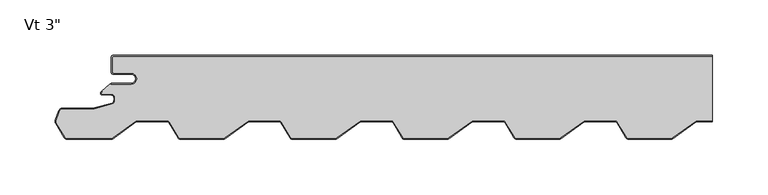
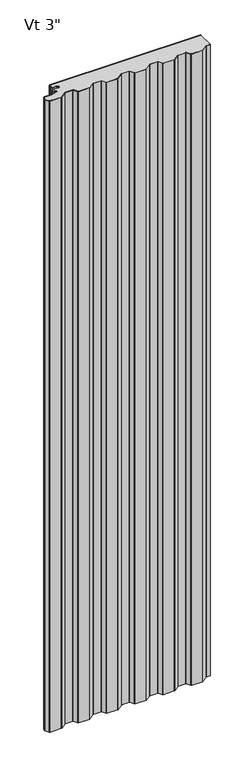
"""IFC4 building model written with IfcOpenShell, lengths in millimetres: plate geometry."""

from ifc_helpers import new_model, si_unit, point, frame_2d, origin, origin_with_axes, place, context, project, spatial, polyline, circle_curve, trimmed, segment, composite_curve, outline, extrude, source, transform, mapped, element, save


def plate_98482b00(model_context):
    return source(origin(), model_context, "Body", "SweptSolid", [
        extrude(outline(composite_curve([segment(polyline([(-270.4180055, 0.0), (272.7999998, 0.0), (272.7999998, -0.7939981), (-270.4180055, -0.7939981)]), True, "CONTINUOUS"), segment(trimmed(circle_curve(frame_2d((-270.4180055, -2.3819944)), 1.5879962), [point((-270.4180055, -0.7939981))], [point((-272.0060017, -2.3819944))], True, "CARTESIAN"), True, "CONTINUOUS"), segment(polyline([(-272.0060017, -2.3819944), (-272.0060017, -15.0859644)]), True, "CONTINUOUS"), segment(trimmed(circle_curve(frame_2d((-270.4180055, -15.0859644)), 1.5879962), [point((-272.0060017, -15.0859644))], [point((-270.4180055, -16.6739606))], True, "CARTESIAN"), True, "CONTINUOUS"), segment(polyline([(-270.4180055, -16.6739606), (-254.538043, -16.6739606)]), True, "CONTINUOUS"), segment(trimmed(circle_curve(frame_2d((-254.538043, -21.4379494)), 4.7639887), [point((-254.538043, -16.6739606))], [point((-254.538043, -26.2019381))], False, "CARTESIAN"), True, "CONTINUOUS"), segment(polyline([(-254.538043, -26.2019381), (-272.7999998, -26.2019381), (-272.7999998, -25.40794), (-254.538043, -25.40794)]), True, "CONTINUOUS"), segment(trimmed(circle_curve(frame_2d((-254.538043, -21.4379494)), 3.9699906), [point((-254.538043, -25.40794))], [point((-254.538043, -17.4679587))], True, "CARTESIAN"), True, "CONTINUOUS"), segment(polyline([(-254.538043, -17.4679587), (-270.4180055, -17.4679587)]), True, "CONTINUOUS"), segment(trimmed(circle_curve(frame_2d((-270.4180055, -15.0859644)), 2.3819944), [point((-270.4180055, -17.4679587))], [point((-272.7999998, -15.0859644))], False, "CARTESIAN"), True, "CONTINUOUS"), segment(polyline([(-272.7999998, -15.0859644), (-272.7999998, -2.3819944)]), True, "CONTINUOUS"), segment(trimmed(circle_curve(frame_2d((-270.4180055, -2.3819944)), 2.3819944), [point((-272.7999998, -2.3819944))], [point((-270.4180055, 0.0))], False, "CARTESIAN"), True, "CONTINUOUS")], self_intersect=False)), origin_with_axes(), (0.0, 0.0, 1.0), 2400.0),
        extrude(outline(composite_curve([segment(polyline([(-270.4180055, -0.8019381), (272.7999998, -0.8019381), (272.7999998, -59.5200375), (259.1601262, -59.5200375)]), True, "CONTINUOUS"), segment(trimmed(circle_curve(frame_2d((259.1601262, -61.870272)), 2.3502344), [point((259.1601262, -59.5200375))], [point((257.7940802, -59.9578075))], True, "CARTESIAN"), True, "CONTINUOUS"), segment(polyline([(257.7940802, -59.9578075), (236.5891175, -75.1042095)]), True, "CONTINUOUS"), segment(trimmed(circle_curve(frame_2d((235.6661134, -73.8120038)), 1.5879962), [point((236.5891175, -75.1042095))], [point((235.6661134, -75.4))], False, "CARTESIAN"), True, "CONTINUOUS"), segment(polyline([(235.6661134, -75.4), (196.4620591, -75.4)]), True, "CONTINUOUS"), segment(trimmed(circle_curve(frame_2d((196.4620591, -73.8120038)), 1.5879962), [point((196.4620591, -75.4))], [point((195.1003636, -74.6290211))], False, "CARTESIAN"), True, "CONTINUOUS"), segment(polyline([(195.1003636, -74.6290211), (186.7196027, -60.6610863)]), True, "CONTINUOUS"), segment(trimmed(circle_curve(frame_2d((184.7042933, -61.870272)), 2.3502344), [point((186.7196027, -60.6610863))], [point((184.7042933, -59.5200375))], True, "CARTESIAN"), True, "CONTINUOUS"), segment(polyline([(184.7042933, -59.5200375), (157.5283663, -59.5200375)]), True, "CONTINUOUS"), segment(trimmed(circle_curve(frame_2d((157.5283663, -61.870272)), 2.3502344), [point((157.5283663, -59.5200375))], [point((156.1623203, -59.9578075))], True, "CARTESIAN"), True, "CONTINUOUS"), segment(polyline([(156.1623203, -59.9578075), (134.9573576, -75.1042095)]), True, "CONTINUOUS"), segment(trimmed(circle_curve(frame_2d((134.0343535, -73.8120038)), 1.5879962), [point((134.9573576, -75.1042095))], [point((134.0343535, -75.4))], False, "CARTESIAN"), True, "CONTINUOUS"), segment(polyline([(134.0343535, -75.4), (94.8302992, -75.4)]), True, "CONTINUOUS"), segment(trimmed(circle_curve(frame_2d((94.8302992, -73.8120038)), 1.5879962), [point((94.8302992, -75.4))], [point((93.4686036, -74.6290211))], False, "CARTESIAN"), True, "CONTINUOUS"), segment(polyline([(93.4686036, -74.6290211), (85.0878428, -60.6610863)]), True, "CONTINUOUS"), segment(trimmed(circle_curve(frame_2d((83.0725334, -61.870272)), 2.3502344), [point((85.0878428, -60.6610863))], [point((83.0725334, -59.5200375))], True, "CARTESIAN"), True, "CONTINUOUS"), segment(polyline([(83.0725334, -59.5200375), (55.8966064, -59.5200375)]), True, "CONTINUOUS"), segment(trimmed(circle_curve(frame_2d((55.8966064, -61.870272)), 2.3502344), [point((55.8966064, -59.5200375))], [point((54.5305604, -59.9578075))], True, "CARTESIAN"), True, "CONTINUOUS"), segment(polyline([(54.5305604, -59.9578075), (33.3255977, -75.1042095)]), True, "CONTINUOUS"), segment(trimmed(circle_curve(frame_2d((32.4025936, -73.8120038)), 1.5879962), [point((33.3255977, -75.1042095))], [point((32.4025936, -75.4))], False, "CARTESIAN"), True, "CONTINUOUS"), segment(polyline([(32.4025936, -75.4), (-6.8014607, -75.4)]), True, "CONTINUOUS"), segment(trimmed(circle_curve(frame_2d((-6.8014607, -73.8120038)), 1.5879962), [point((-6.8014607, -75.4))], [point((-8.1631563, -74.6290211))], False, "CARTESIAN"), True, "CONTINUOUS"), segment(polyline([(-8.1631563, -74.6290211), (-16.5439171, -60.6610863)]), True, "CONTINUOUS"), segment(trimmed(circle_curve(frame_2d((-18.5592266, -61.870272)), 2.3502344), [point((-16.5439171, -60.6610863))], [point((-18.5592266, -59.5200375))], True, "CARTESIAN"), True, "CONTINUOUS"), segment(polyline([(-18.5592266, -59.5200375), (-45.7351535, -59.5200375)]), True, "CONTINUOUS"), segment(trimmed(circle_curve(frame_2d((-45.7351535, -61.870272)), 2.3502344), [point((-45.7351535, -59.5200375))], [point((-47.1011996, -59.9578075))], True, "CARTESIAN"), True, "CONTINUOUS"), segment(polyline([(-47.1011996, -59.9578075), (-68.3061623, -75.1042095)]), True, "CONTINUOUS"), segment(trimmed(circle_curve(frame_2d((-69.2291663, -73.8120038)), 1.5879962), [point((-68.3061623, -75.1042095))], [point((-69.2291663, -75.4))], False, "CARTESIAN"), True, "CONTINUOUS"), segment(polyline([(-69.2291663, -75.4), (-108.4332207, -75.4)]), True, "CONTINUOUS"), segment(trimmed(circle_curve(frame_2d((-108.4332207, -73.8120038)), 1.5879962), [point((-108.4332207, -75.4))], [point((-109.7949162, -74.6290211))], False, "CARTESIAN"), True, "CONTINUOUS"), segment(polyline([(-109.7949162, -74.6290211), (-118.1756771, -60.6610863)]), True, "CONTINUOUS"), segment(trimmed(circle_curve(frame_2d((-120.1909865, -61.870272)), 2.3502344), [point((-118.1756771, -60.6610863))], [point((-120.1909865, -59.5200375))], True, "CARTESIAN"), True, "CONTINUOUS"), segment(polyline([(-120.1909865, -59.5200375), (-147.3669135, -59.5200375)]), True, "CONTINUOUS"), segment(trimmed(circle_curve(frame_2d((-147.3669135, -61.870272)), 2.3502344), [point((-147.3669135, -59.5200375))], [point((-148.7329595, -59.9578075))], True, "CARTESIAN"), True, "CONTINUOUS"), segment(polyline([(-148.7329595, -59.9578075), (-169.9379222, -75.1042095)]), True, "CONTINUOUS"), segment(trimmed(circle_curve(frame_2d((-170.8609263, -73.8120038)), 1.5879962), [point((-169.9379222, -75.1042095))], [point((-170.8609263, -75.4))], False, "CARTESIAN"), True, "CONTINUOUS"), segment(polyline([(-170.8609263, -75.4), (-210.0649806, -75.4)]), True, "CONTINUOUS"), segment(trimmed(circle_curve(frame_2d((-210.0649806, -73.8120038)), 1.5879962), [point((-210.0649806, -75.4))], [point((-211.4266761, -74.6290211))], False, "CARTESIAN"), True, "CONTINUOUS"), segment(polyline([(-211.4266761, -74.6290211), (-219.807437, -60.6610863)]), True, "CONTINUOUS"), segment(trimmed(circle_curve(frame_2d((-221.8227464, -61.870272)), 2.3502344), [point((-219.807437, -60.6610863))], [point((-221.8227464, -59.5200375))], True, "CARTESIAN"), True, "CONTINUOUS"), segment(polyline([(-221.8227464, -59.5200375), (-248.9986734, -59.5200375)]), True, "CONTINUOUS"), segment(trimmed(circle_curve(frame_2d((-248.9986734, -61.870272)), 2.3502344), [point((-248.9986734, -59.5200375))], [point((-250.3647194, -59.9578075))], True, "CARTESIAN"), True, "CONTINUOUS"), segment(polyline([(-250.3647194, -59.9578075), (-271.5696821, -75.1042095)]), True, "CONTINUOUS"), segment(trimmed(circle_curve(frame_2d((-272.4926862, -73.8120038)), 1.5879962), [point((-271.5696821, -75.1042095))], [point((-272.4926862, -75.4))], False, "CARTESIAN"), True, "CONTINUOUS"), segment(polyline([(-272.4926862, -75.4), (-313.2512341, -75.4)]), True, "CONTINUOUS"), segment(trimmed(circle_curve(frame_2d((-313.2512341, -73.8120038)), 1.5879962), [point((-313.2512341, -75.4))], [point((-314.6129296, -74.6290211))], False, "CARTESIAN"), True, "CONTINUOUS"), segment(polyline([(-314.6129296, -74.6290211), (-322.4856613, -61.5078017)]), True, "CONTINUOUS"), segment(trimmed(circle_curve(frame_2d((-320.4431179, -60.2822757)), 2.3819944), [point((-322.4856613, -61.5078017))], [point((-322.6814605, -59.4675857))], False, "CARTESIAN"), True, "CONTINUOUS"), segment(polyline([(-322.6814605, -59.4675857), (-319.4568321, -50.6079921)]), True, "CONTINUOUS"), segment(trimmed(circle_curve(frame_2d((-317.2184896, -51.4226821)), 2.3819944), [point((-319.4568321, -50.6079921))], [point((-317.2184896, -49.0406877))], False, "CARTESIAN"), True, "CONTINUOUS"), segment(polyline([(-317.2184896, -49.0406877), (-290.0333742, -49.0406877)]), True, "CONTINUOUS"), segment(trimmed(circle_curve(frame_2d((-290.0333742, -45.8964552)), 3.1442326), [point((-290.0333742, -49.0406877))], [point((-289.2083607, -48.9305203))], True, "CARTESIAN"), True, "CONTINUOUS"), segment(polyline([(-289.2083607, -48.9305203), (-271.729044, -44.1775993)]), True, "CONTINUOUS"), segment(trimmed(circle_curve(frame_2d((-272.5540575, -41.1435342)), 3.1442326), [point((-271.729044, -44.1775993))], [point((-269.4098249, -41.1435342))], True, "CARTESIAN"), True, "CONTINUOUS"), segment(polyline([(-269.4098249, -41.1435342), (-269.4098249, -38.4816786)]), True, "CONTINUOUS"), segment(trimmed(circle_curve(frame_2d((-272.5540575, -38.4816786)), 3.1442326), [point((-269.4098249, -38.4816786))], [point((-272.5540575, -35.3374461))], True, "CARTESIAN"), True, "CONTINUOUS"), segment(polyline([(-272.5540575, -35.3374461), (-280.6420193, -35.3374461)]), True, "CONTINUOUS"), segment(trimmed(circle_curve(frame_2d((-280.6420193, -34.5434479)), 0.7939981), [point((-280.6420193, -35.3374461))], [point((-281.2034608, -33.9820065))], False, "CARTESIAN"), True, "CONTINUOUS"), segment(polyline([(-281.2034608, -33.9820065), (-280.6420193, -33.420565), (-281.2126537, -32.8499306), (-274.2125705, -26.2098781), (-254.538043, -26.2098781)]), True, "CONTINUOUS"), segment(trimmed(circle_curve(frame_2d((-254.538043, -21.4458893)), 4.7639887), [point((-254.538043, -26.2098781))], [point((-254.538043, -16.6819006))], True, "CARTESIAN"), True, "CONTINUOUS"), segment(polyline([(-254.538043, -16.6819006), (-270.4180055, -16.6819006)]), True, "CONTINUOUS"), segment(trimmed(circle_curve(frame_2d((-270.4180055, -15.0939043)), 1.5879962), [point((-270.4180055, -16.6819006))], [point((-272.0060017, -15.0939043))], False, "CARTESIAN"), True, "CONTINUOUS"), segment(polyline([(-272.0060017, -15.0939043), (-272.0060017, -2.3899344)]), True, "CONTINUOUS"), segment(trimmed(circle_curve(frame_2d((-270.4180055, -2.3899344)), 1.5879962), [point((-272.0060017, -2.3899344))], [point((-270.4180055, -0.8019381))], False, "CARTESIAN"), True, "CONTINUOUS")], self_intersect=False)), origin_with_axes(), (0.0, 0.0, 1.0), 2400.0),
        extrude(outline(composite_curve([segment(polyline([(259.1601262, -59.5200375), (272.7999998, -59.5200375), (272.7999998, -60.3200375), (259.1601262, -60.3200375)]), True, "CONTINUOUS"), segment(trimmed(circle_curve(frame_2d((259.1601262, -61.870272)), 1.5502344), [point((259.1601262, -60.3200375))], [point((258.2590708, -60.6087943))], True, "CARTESIAN"), True, "CONTINUOUS"), segment(polyline([(258.2590708, -60.6087943), (237.0541081, -75.7551962)]), True, "CONTINUOUS"), segment(trimmed(circle_curve(frame_2d((235.6661134, -73.8120038)), 2.3879962), [point((237.0541081, -75.7551962))], [point((235.6661134, -76.2))], False, "CARTESIAN"), True, "CONTINUOUS"), segment(polyline([(235.6661134, -76.2), (196.4620591, -76.2)]), True, "CONTINUOUS"), segment(trimmed(circle_curve(frame_2d((196.4620591, -73.8120038)), 2.3879962), [point((196.4620591, -76.2))], [point((194.4143692, -75.0406177))], False, "CARTESIAN"), True, "CONTINUOUS"), segment(polyline([(194.4143692, -75.0406177), (186.0336084, -61.0726829)]), True, "CONTINUOUS"), segment(trimmed(circle_curve(frame_2d((184.7042933, -61.870272)), 1.5502344), [point((186.0336084, -61.0726829))], [point((184.7042933, -60.3200375))], True, "CARTESIAN"), True, "CONTINUOUS"), segment(polyline([(184.7042933, -60.3200375), (157.5283663, -60.3200375)]), True, "CONTINUOUS"), segment(trimmed(circle_curve(frame_2d((157.5283663, -61.870272)), 1.5502344), [point((157.5283663, -60.3200375))], [point((156.6273108, -60.6087943))], True, "CARTESIAN"), True, "CONTINUOUS"), segment(polyline([(156.6273108, -60.6087943), (135.4223481, -75.7551962)]), True, "CONTINUOUS"), segment(trimmed(circle_curve(frame_2d((134.0343535, -73.8120038)), 2.3879962), [point((135.4223481, -75.7551962))], [point((134.0343535, -76.2))], False, "CARTESIAN"), True, "CONTINUOUS"), segment(polyline([(134.0343535, -76.2), (94.8302992, -76.2)]), True, "CONTINUOUS"), segment(trimmed(circle_curve(frame_2d((94.8302992, -73.8120038)), 2.3879962), [point((94.8302992, -76.2))], [point((92.7826093, -75.0406177))], False, "CARTESIAN"), True, "CONTINUOUS"), segment(polyline([(92.7826093, -75.0406177), (84.4018484, -61.0726829)]), True, "CONTINUOUS"), segment(trimmed(circle_curve(frame_2d((83.0725334, -61.870272)), 1.5502344), [point((84.4018484, -61.0726829))], [point((83.0725334, -60.3200375))], True, "CARTESIAN"), True, "CONTINUOUS"), segment(polyline([(83.0725334, -60.3200375), (55.8966064, -60.3200375)]), True, "CONTINUOUS"), segment(trimmed(circle_curve(frame_2d((55.8966064, -61.870272)), 1.5502344), [point((55.8966064, -60.3200375))], [point((54.9955509, -60.6087943))], True, "CARTESIAN"), True, "CONTINUOUS"), segment(polyline([(54.9955509, -60.6087943), (33.7905882, -75.7551962)]), True, "CONTINUOUS"), segment(trimmed(circle_curve(frame_2d((32.4025936, -73.8120038)), 2.3879962), [point((33.7905882, -75.7551962))], [point((32.4025936, -76.2))], False, "CARTESIAN"), True, "CONTINUOUS"), segment(polyline([(32.4025936, -76.2), (-6.8014607, -76.2)]), True, "CONTINUOUS"), segment(trimmed(circle_curve(frame_2d((-6.8014607, -73.8120038)), 2.3879962), [point((-6.8014607, -76.2))], [point((-8.8491506, -75.0406177))], False, "CARTESIAN"), True, "CONTINUOUS"), segment(polyline([(-8.8491506, -75.0406177), (-17.2299115, -61.0726829)]), True, "CONTINUOUS"), segment(trimmed(circle_curve(frame_2d((-18.5592266, -61.870272)), 1.5502344), [point((-17.2299115, -61.0726829))], [point((-18.5592266, -60.3200375))], True, "CARTESIAN"), True, "CONTINUOUS"), segment(polyline([(-18.5592266, -60.3200375), (-45.7351535, -60.3200375)]), True, "CONTINUOUS"), segment(trimmed(circle_curve(frame_2d((-45.7351535, -61.870272)), 1.5502344), [point((-45.7351535, -60.3200375))], [point((-46.636209, -60.6087943))], True, "CARTESIAN"), True, "CONTINUOUS"), segment(polyline([(-46.636209, -60.6087943), (-67.8411717, -75.7551962)]), True, "CONTINUOUS"), segment(trimmed(circle_curve(frame_2d((-69.2291663, -73.8120038)), 2.3879962), [point((-67.8411717, -75.7551962))], [point((-69.2291663, -76.2))], False, "CARTESIAN"), True, "CONTINUOUS"), segment(polyline([(-69.2291663, -76.2), (-108.4332207, -76.2)]), True, "CONTINUOUS"), segment(trimmed(circle_curve(frame_2d((-108.4332207, -73.8120038)), 2.3879962), [point((-108.4332207, -76.2))], [point((-110.4809105, -75.0406177))], False, "CARTESIAN"), True, "CONTINUOUS"), segment(polyline([(-110.4809105, -75.0406177), (-118.8616714, -61.0726829)]), True, "CONTINUOUS"), segment(trimmed(circle_curve(frame_2d((-120.1909865, -61.870272)), 1.5502344), [point((-118.8616714, -61.0726829))], [point((-120.1909865, -60.3200375))], True, "CARTESIAN"), True, "CONTINUOUS"), segment(polyline([(-120.1909865, -60.3200375), (-147.3669135, -60.3200375)]), True, "CONTINUOUS"), segment(trimmed(circle_curve(frame_2d((-147.3669135, -61.870272)), 1.5502344), [point((-147.3669135, -60.3200375))], [point((-148.2679689, -60.6087943))], True, "CARTESIAN"), True, "CONTINUOUS"), segment(polyline([(-148.2679689, -60.6087943), (-169.4729316, -75.7551962)]), True, "CONTINUOUS"), segment(trimmed(circle_curve(frame_2d((-170.8609263, -73.8120038)), 2.3879962), [point((-169.4729316, -75.7551962))], [point((-170.8609263, -76.2))], False, "CARTESIAN"), True, "CONTINUOUS"), segment(polyline([(-170.8609263, -76.2), (-210.0649806, -76.2)]), True, "CONTINUOUS"), segment(trimmed(circle_curve(frame_2d((-210.0649806, -73.8120038)), 2.3879962), [point((-210.0649806, -76.2))], [point((-212.1126705, -75.0406177))], False, "CARTESIAN"), True, "CONTINUOUS"), segment(polyline([(-212.1126705, -75.0406177), (-220.4934313, -61.0726829)]), True, "CONTINUOUS"), segment(trimmed(circle_curve(frame_2d((-221.8227464, -61.870272)), 1.5502344), [point((-220.4934313, -61.0726829))], [point((-221.8227464, -60.3200375))], True, "CARTESIAN"), True, "CONTINUOUS"), segment(polyline([(-221.8227464, -60.3200375), (-248.9986734, -60.3200375)]), True, "CONTINUOUS"), segment(trimmed(circle_curve(frame_2d((-248.9986734, -61.870272)), 1.5502344), [point((-248.9986734, -60.3200375))], [point((-249.8997289, -60.6087943))], True, "CARTESIAN"), True, "CONTINUOUS"), segment(polyline([(-249.8997289, -60.6087943), (-271.1046916, -75.7551962)]), True, "CONTINUOUS"), segment(trimmed(circle_curve(frame_2d((-272.4926862, -73.8120038)), 2.3879962), [point((-271.1046916, -75.7551962))], [point((-272.4926862, -76.2))], False, "CARTESIAN"), True, "CONTINUOUS"), segment(polyline([(-272.4926862, -76.2), (-313.2512341, -76.2)]), True, "CONTINUOUS"), segment(trimmed(circle_curve(frame_2d((-313.2512341, -73.8120038)), 2.3879962), [point((-313.2512341, -76.2))], [point((-315.298924, -75.0406177))], False, "CARTESIAN"), True, "CONTINUOUS"), segment(polyline([(-315.298924, -75.0406177), (-323.1716556, -61.9193983)]), True, "CONTINUOUS"), segment(trimmed(circle_curve(frame_2d((-320.4431179, -60.2822757)), 3.1819944), [point((-323.1716556, -61.9193983))], [point((-323.4332146, -59.1939695))], False, "CARTESIAN"), True, "CONTINUOUS"), segment(polyline([(-323.4332146, -59.1939695), (-320.2085862, -50.3343759)]), True, "CONTINUOUS"), segment(trimmed(circle_curve(frame_2d((-317.2184896, -51.4226821)), 3.1819944), [point((-320.2085862, -50.3343759))], [point((-317.2184896, -48.2406877))], False, "CARTESIAN"), True, "CONTINUOUS"), segment(polyline([(-317.2184896, -48.2406877), (-289.7203392, -48.2406877), (-271.9389556, -43.4056297)]), True, "CONTINUOUS"), segment(trimmed(circle_curve(frame_2d((-272.5540575, -41.1435342)), 2.3442326), [point((-271.9389556, -43.4056297))], [point((-270.2098249, -41.1435342))], True, "CARTESIAN"), True, "CONTINUOUS"), segment(polyline([(-270.2098249, -41.1435342), (-270.2098249, -38.4816786)]), True, "CONTINUOUS"), segment(trimmed(circle_curve(frame_2d((-272.5540575, -38.4816786)), 2.3442326), [point((-270.2098249, -38.4816786))], [point((-272.5540575, -36.1374461))], True, "CARTESIAN"), True, "CONTINUOUS"), segment(polyline([(-272.5540575, -36.1374461), (-280.7201443, -36.1374461)]), True, "CONTINUOUS"), segment(trimmed(circle_curve(frame_2d((-280.7201443, -34.5434479)), 1.5939981), [point((-280.7201443, -36.1374461))], [point((-281.8472712, -33.4163211))], False, "CARTESIAN"), True, "CONTINUOUS"), segment(polyline([(-281.8472712, -33.4163211), (-281.2858297, -32.8548796), (-280.7201443, -33.420565), (-281.2815858, -33.9820065)]), True, "CONTINUOUS"), segment(trimmed(circle_curve(frame_2d((-280.7201443, -34.5434479)), 0.7939981), [point((-281.2815858, -33.9820065))], [point((-280.7201443, -35.3374461))], True, "CARTESIAN"), True, "CONTINUOUS"), segment(polyline([(-280.7201443, -35.3374461), (-272.5540575, -35.3374461)]), True, "CONTINUOUS"), segment(trimmed(circle_curve(frame_2d((-272.5540575, -38.4816786)), 3.1442326), [point((-272.5540575, -35.3374461))], [point((-269.4098249, -38.4816786))], False, "CARTESIAN"), True, "CONTINUOUS"), segment(polyline([(-269.4098249, -38.4816786), (-269.4098249, -41.1435342)]), True, "CONTINUOUS"), segment(trimmed(circle_curve(frame_2d((-272.5540575, -41.1435342)), 3.1442326), [point((-269.4098249, -41.1435342))], [point((-271.729044, -44.1775993))], False, "CARTESIAN"), True, "CONTINUOUS"), segment(polyline([(-271.729044, -44.1775993), (-289.2083607, -48.9305203)]), True, "CONTINUOUS"), segment(trimmed(circle_curve(frame_2d((-290.0333742, -45.8964552)), 3.1442326), [point((-289.2083607, -48.9305203))], [point((-290.0333742, -49.0406877))], False, "CARTESIAN"), True, "CONTINUOUS"), segment(polyline([(-290.0333742, -49.0406877), (-317.2184896, -49.0406877)]), True, "CONTINUOUS"), segment(trimmed(circle_curve(frame_2d((-317.2184896, -51.4226821)), 2.3819944), [point((-317.2184896, -49.0406877))], [point((-319.4568321, -50.6079921))], True, "CARTESIAN"), True, "CONTINUOUS"), segment(polyline([(-319.4568321, -50.6079921), (-322.6814605, -59.4675857)]), True, "CONTINUOUS"), segment(trimmed(circle_curve(frame_2d((-320.4431179, -60.2822757)), 2.3819944), [point((-322.6814605, -59.4675857))], [point((-322.4856613, -61.5078017))], True, "CARTESIAN"), True, "CONTINUOUS"), segment(polyline([(-322.4856613, -61.5078017), (-314.6129296, -74.6290211)]), True, "CONTINUOUS"), segment(trimmed(circle_curve(frame_2d((-313.2512341, -73.8120038)), 1.5879962), [point((-314.6129296, -74.6290211))], [point((-313.2512341, -75.4))], True, "CARTESIAN"), True, "CONTINUOUS"), segment(polyline([(-313.2512341, -75.4), (-272.4926862, -75.4)]), True, "CONTINUOUS"), segment(trimmed(circle_curve(frame_2d((-272.4926862, -73.8120038)), 1.5879962), [point((-272.4926862, -75.4))], [point((-271.5696821, -75.1042095))], True, "CARTESIAN"), True, "CONTINUOUS"), segment(polyline([(-271.5696821, -75.1042095), (-250.3647194, -59.9578075)]), True, "CONTINUOUS"), segment(trimmed(circle_curve(frame_2d((-248.9986734, -61.870272)), 2.3502344), [point((-250.3647194, -59.9578075))], [point((-248.9986734, -59.5200375))], False, "CARTESIAN"), True, "CONTINUOUS"), segment(polyline([(-248.9986734, -59.5200375), (-221.8227464, -59.5200375)]), True, "CONTINUOUS"), segment(trimmed(circle_curve(frame_2d((-221.8227464, -61.870272)), 2.3502344), [point((-221.8227464, -59.5200375))], [point((-219.807437, -60.6610863))], False, "CARTESIAN"), True, "CONTINUOUS"), segment(polyline([(-219.807437, -60.6610863), (-211.4266761, -74.6290211)]), True, "CONTINUOUS"), segment(trimmed(circle_curve(frame_2d((-210.0649806, -73.8120038)), 1.5879962), [point((-211.4266761, -74.6290211))], [point((-210.0649806, -75.4))], True, "CARTESIAN"), True, "CONTINUOUS"), segment(polyline([(-210.0649806, -75.4), (-170.8609263, -75.4)]), True, "CONTINUOUS"), segment(trimmed(circle_curve(frame_2d((-170.8609263, -73.8120038)), 1.5879962), [point((-170.8609263, -75.4))], [point((-169.9379222, -75.1042095))], True, "CARTESIAN"), True, "CONTINUOUS"), segment(polyline([(-169.9379222, -75.1042095), (-148.7329595, -59.9578075)]), True, "CONTINUOUS"), segment(trimmed(circle_curve(frame_2d((-147.3669135, -61.870272)), 2.3502344), [point((-148.7329595, -59.9578075))], [point((-147.3669135, -59.5200375))], False, "CARTESIAN"), True, "CONTINUOUS"), segment(polyline([(-147.3669135, -59.5200375), (-120.1909865, -59.5200375)]), True, "CONTINUOUS"), segment(trimmed(circle_curve(frame_2d((-120.1909865, -61.870272)), 2.3502344), [point((-120.1909865, -59.5200375))], [point((-118.1756771, -60.6610863))], False, "CARTESIAN"), True, "CONTINUOUS"), segment(polyline([(-118.1756771, -60.6610863), (-109.7949162, -74.6290211)]), True, "CONTINUOUS"), segment(trimmed(circle_curve(frame_2d((-108.4332207, -73.8120038)), 1.5879962), [point((-109.7949162, -74.6290211))], [point((-108.4332207, -75.4))], True, "CARTESIAN"), True, "CONTINUOUS"), segment(polyline([(-108.4332207, -75.4), (-69.2291663, -75.4)]), True, "CONTINUOUS"), segment(trimmed(circle_curve(frame_2d((-69.2291663, -73.8120038)), 1.5879962), [point((-69.2291663, -75.4))], [point((-68.3061623, -75.1042095))], True, "CARTESIAN"), True, "CONTINUOUS"), segment(polyline([(-68.3061623, -75.1042095), (-47.1011996, -59.9578075)]), True, "CONTINUOUS"), segment(trimmed(circle_curve(frame_2d((-45.7351535, -61.870272)), 2.3502344), [point((-47.1011996, -59.9578075))], [point((-45.7351535, -59.5200375))], False, "CARTESIAN"), True, "CONTINUOUS"), segment(polyline([(-45.7351535, -59.5200375), (-18.5592266, -59.5200375)]), True, "CONTINUOUS"), segment(trimmed(circle_curve(frame_2d((-18.5592266, -61.870272)), 2.3502344), [point((-18.5592266, -59.5200375))], [point((-16.5439171, -60.6610863))], False, "CARTESIAN"), True, "CONTINUOUS"), segment(polyline([(-16.5439171, -60.6610863), (-8.1631563, -74.6290211)]), True, "CONTINUOUS"), segment(trimmed(circle_curve(frame_2d((-6.8014607, -73.8120038)), 1.5879962), [point((-8.1631563, -74.6290211))], [point((-6.8014607, -75.4))], True, "CARTESIAN"), True, "CONTINUOUS"), segment(polyline([(-6.8014607, -75.4), (32.4025936, -75.4)]), True, "CONTINUOUS"), segment(trimmed(circle_curve(frame_2d((32.4025936, -73.8120038)), 1.5879962), [point((32.4025936, -75.4))], [point((33.3255977, -75.1042095))], True, "CARTESIAN"), True, "CONTINUOUS"), segment(polyline([(33.3255977, -75.1042095), (54.5305604, -59.9578075)]), True, "CONTINUOUS"), segment(trimmed(circle_curve(frame_2d((55.8966064, -61.870272)), 2.3502344), [point((54.5305604, -59.9578075))], [point((55.8966064, -59.5200375))], False, "CARTESIAN"), True, "CONTINUOUS"), segment(polyline([(55.8966064, -59.5200375), (83.0725334, -59.5200375)]), True, "CONTINUOUS"), segment(trimmed(circle_curve(frame_2d((83.0725334, -61.870272)), 2.3502344), [point((83.0725334, -59.5200375))], [point((85.0878428, -60.6610863))], False, "CARTESIAN"), True, "CONTINUOUS"), segment(polyline([(85.0878428, -60.6610863), (93.4686036, -74.6290211)]), True, "CONTINUOUS"), segment(trimmed(circle_curve(frame_2d((94.8302992, -73.8120038)), 1.5879962), [point((93.4686036, -74.6290211))], [point((94.8302992, -75.4))], True, "CARTESIAN"), True, "CONTINUOUS"), segment(polyline([(94.8302992, -75.4), (134.0343535, -75.4)]), True, "CONTINUOUS"), segment(trimmed(circle_curve(frame_2d((134.0343535, -73.8120038)), 1.5879962), [point((134.0343535, -75.4))], [point((134.9573576, -75.1042095))], True, "CARTESIAN"), True, "CONTINUOUS"), segment(polyline([(134.9573576, -75.1042095), (156.1623203, -59.9578075)]), True, "CONTINUOUS"), segment(trimmed(circle_curve(frame_2d((157.5283663, -61.870272)), 2.3502344), [point((156.1623203, -59.9578075))], [point((157.5283663, -59.5200375))], False, "CARTESIAN"), True, "CONTINUOUS"), segment(polyline([(157.5283663, -59.5200375), (184.7042933, -59.5200375)]), True, "CONTINUOUS"), segment(trimmed(circle_curve(frame_2d((184.7042933, -61.870272)), 2.3502344), [point((184.7042933, -59.5200375))], [point((186.7196027, -60.6610863))], False, "CARTESIAN"), True, "CONTINUOUS"), segment(polyline([(186.7196027, -60.6610863), (195.1003636, -74.6290211)]), True, "CONTINUOUS"), segment(trimmed(circle_curve(frame_2d((196.4620591, -73.8120038)), 1.5879962), [point((195.1003636, -74.6290211))], [point((196.4620591, -75.4))], True, "CARTESIAN"), True, "CONTINUOUS"), segment(polyline([(196.4620591, -75.4), (235.6661134, -75.4)]), True, "CONTINUOUS"), segment(trimmed(circle_curve(frame_2d((235.6661134, -73.8120038)), 1.5879962), [point((235.6661134, -75.4))], [point((236.5891175, -75.1042095))], True, "CARTESIAN"), True, "CONTINUOUS"), segment(polyline([(236.5891175, -75.1042095), (257.7940802, -59.9578075)]), True, "CONTINUOUS"), segment(trimmed(circle_curve(frame_2d((259.1601262, -61.870272)), 2.3502344), [point((257.7940802, -59.9578075))], [point((259.1601262, -59.5200375))], False, "CARTESIAN"), True, "CONTINUOUS")], self_intersect=False)), origin_with_axes(), (0.0, 0.0, 1.0), 2400.0),
    ])


if __name__ == "__main__":
    model = new_model("IFC4")
    model_context = context("Model", 3, world=origin())
    ifc_project = project(units=[si_unit("LENGTHUNIT", "METRE", prefix="MILLI")], contexts=[model_context])
    site = spatial("IfcSite", under=ifc_project)
    building = spatial("IfcBuilding", under=site)
    placement = place(None, origin())
    plate_shape = plate_98482b00(model_context)
    element("IfcPlate", 1, ObjectType="KIP-36-Vale-R19-CP-Vt : Vt 3\"", at=placement, inside=building, context=model_context, shape_type="MappedRepresentation", body=[
        mapped(plate_shape, transform((0.0, 0.0, 0.0), x_axis=(1.0, 0.0, 0.0), y_axis=(0.0, 1.0, 0.0), z_axis=(0.0, 0.0, 1.0))),
    ])
    save(model, "model.ifc")
